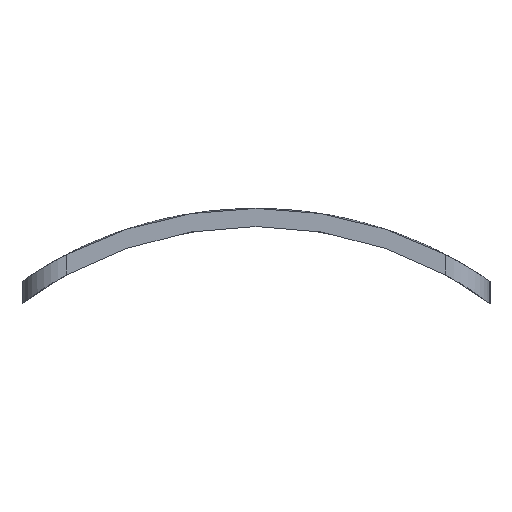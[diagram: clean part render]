
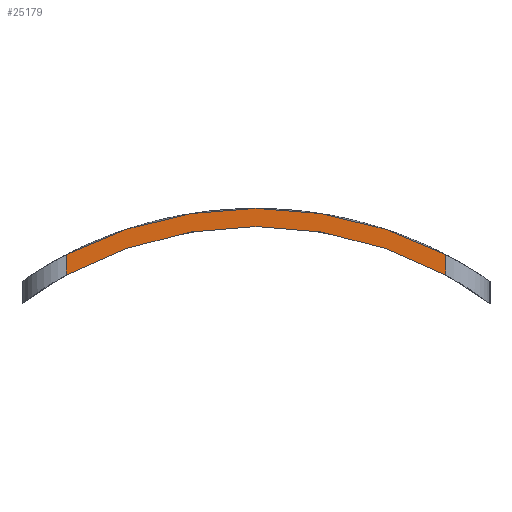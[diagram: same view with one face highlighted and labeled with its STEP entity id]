
A CAD part, left-side view. The second image highlights one B-rep face of the part: STEP entity #25179.
In plain terms, the highlighted planar face has unit normal (-1, 0, 0).
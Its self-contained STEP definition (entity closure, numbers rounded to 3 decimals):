
#22 = VERTEX_POINT('',#23);
#23 = CARTESIAN_POINT('',(245.3,11.5,22.198));
#43 = CYLINDRICAL_SURFACE('',#44,25.);
#44 = AXIS2_PLACEMENT_3D('',#45,#46,#47);
#45 = CARTESIAN_POINT('',(244.,0.,0.));
#46 = DIRECTION('',(1.,0.,0.));
#47 = DIRECTION('',(-0.,0.,1.));
#66 = CYLINDRICAL_SURFACE('',#67,2.7);
#67 = AXIS2_PLACEMENT_3D('',#68,#69,#70);
#68 = CARTESIAN_POINT('',(248.,11.5,5.));
#69 = DIRECTION('',(0.,0.,1.));
#70 = DIRECTION('',(-1.,-0.,0.));
#89 = EDGE_CURVE('',#22,#90,#92,.T.);
#90 = VERTEX_POINT('',#91);
#91 = CARTESIAN_POINT('',(245.3,-11.5,22.198));
#92 = SURFACE_CURVE('',#93,(#98,#105),.PCURVE_S1.);
#93 = CIRCLE('',#94,25.);
#94 = AXIS2_PLACEMENT_3D('',#95,#96,#97);
#95 = CARTESIAN_POINT('',(245.3,0.,0.));
#96 = DIRECTION('',(1.,0.,0.));
#97 = DIRECTION('',(-0.,0.46,0.888));
#98 = PCURVE('',#43,#99);
#99 = DEFINITIONAL_REPRESENTATION('',(#100),#104);
#100 = LINE('',#101,#102);
#101 = CARTESIAN_POINT('',(5.805,1.3));
#102 = VECTOR('',#103,1.);
#103 = DIRECTION('',(1.,0.));
#104 = ( GEOMETRIC_REPRESENTATION_CONTEXT(2) 
PARAMETRIC_REPRESENTATION_CONTEXT() REPRESENTATION_CONTEXT('2D SPACE',''
  ) );
#105 = PCURVE('',#106,#111);
#106 = PLANE('',#107);
#107 = AXIS2_PLACEMENT_3D('',#108,#109,#110);
#108 = CARTESIAN_POINT('',(245.3,-14.2,5.));
#109 = DIRECTION('',(1.,0.,0.));
#110 = DIRECTION('',(0.,0.,1.));
#111 = DEFINITIONAL_REPRESENTATION('',(#112),#116);
#112 = CIRCLE('',#113,25.);
#113 = AXIS2_PLACEMENT_2D('',#114,#115);
#114 = CARTESIAN_POINT('',(-5.,-14.2));
#115 = DIRECTION('',(0.888,-0.46));
#116 = ( GEOMETRIC_REPRESENTATION_CONTEXT(2) 
PARAMETRIC_REPRESENTATION_CONTEXT() REPRESENTATION_CONTEXT('2D SPACE',''
  ) );
#156 = CYLINDRICAL_SURFACE('',#157,2.7);
#157 = AXIS2_PLACEMENT_3D('',#158,#159,#160);
#158 = CARTESIAN_POINT('',(248.,-11.5,5.));
#159 = DIRECTION('',(0.,0.,1.));
#160 = DIRECTION('',(-1.,-0.,0.));
#16059 = CYLINDRICAL_SURFACE('',#16060,23.9);
#16060 = AXIS2_PLACEMENT_3D('',#16061,#16062,#16063);
#16061 = CARTESIAN_POINT('',(243.,0.,0.));
#16062 = DIRECTION('',(1.,0.,0.));
#16063 = DIRECTION('',(-0.,0.,1.));
#16137 = VERTEX_POINT('',#16138);
#16138 = CARTESIAN_POINT('',(245.3,11.5,20.951));
#16194 = EDGE_CURVE('',#16137,#16195,#16197,.T.);
#16195 = VERTEX_POINT('',#16196);
#16196 = CARTESIAN_POINT('',(245.3,-11.5,20.951));
#16197 = SURFACE_CURVE('',#16198,(#16203,#16210),.PCURVE_S1.);
#16198 = CIRCLE('',#16199,23.9);
#16199 = AXIS2_PLACEMENT_3D('',#16200,#16201,#16202);
#16200 = CARTESIAN_POINT('',(245.3,0.,0.));
#16201 = DIRECTION('',(1.,0.,0.));
#16202 = DIRECTION('',(-0.,0.481,0.877));
#16203 = PCURVE('',#16059,#16204);
#16204 = DEFINITIONAL_REPRESENTATION('',(#16205),#16209);
#16205 = LINE('',#16206,#16207);
#16206 = CARTESIAN_POINT('',(5.781,2.3));
#16207 = VECTOR('',#16208,1.);
#16208 = DIRECTION('',(1.,0.));
#16209 = ( GEOMETRIC_REPRESENTATION_CONTEXT(2) 
PARAMETRIC_REPRESENTATION_CONTEXT() REPRESENTATION_CONTEXT('2D SPACE',''
  ) );
#16210 = PCURVE('',#106,#16211);
#16211 = DEFINITIONAL_REPRESENTATION('',(#16212),#16216);
#16212 = CIRCLE('',#16213,23.9);
#16213 = AXIS2_PLACEMENT_2D('',#16214,#16215);
#16214 = CARTESIAN_POINT('',(-5.,-14.2));
#16215 = DIRECTION('',(0.877,-0.481));
#16216 = ( GEOMETRIC_REPRESENTATION_CONTEXT(2) 
PARAMETRIC_REPRESENTATION_CONTEXT() REPRESENTATION_CONTEXT('2D SPACE',''
  ) );
#25156 = EDGE_CURVE('',#16195,#90,#25157,.T.);
#25157 = SURFACE_CURVE('',#25158,(#25162,#25169),.PCURVE_S1.);
#25158 = LINE('',#25159,#25160);
#25159 = CARTESIAN_POINT('',(245.3,-11.5,5.));
#25160 = VECTOR('',#25161,1.);
#25161 = DIRECTION('',(0.,0.,1.));
#25162 = PCURVE('',#156,#25163);
#25163 = DEFINITIONAL_REPRESENTATION('',(#25164),#25168);
#25164 = LINE('',#25165,#25166);
#25165 = CARTESIAN_POINT('',(0.,0.));
#25166 = VECTOR('',#25167,1.);
#25167 = DIRECTION('',(0.,1.));
#25168 = ( GEOMETRIC_REPRESENTATION_CONTEXT(2) 
PARAMETRIC_REPRESENTATION_CONTEXT() REPRESENTATION_CONTEXT('2D SPACE',''
  ) );
#25169 = PCURVE('',#106,#25170);
#25170 = DEFINITIONAL_REPRESENTATION('',(#25171),#25175);
#25171 = LINE('',#25172,#25173);
#25172 = CARTESIAN_POINT('',(0.,-2.7));
#25173 = VECTOR('',#25174,1.);
#25174 = DIRECTION('',(1.,0.));
#25175 = ( GEOMETRIC_REPRESENTATION_CONTEXT(2) 
PARAMETRIC_REPRESENTATION_CONTEXT() REPRESENTATION_CONTEXT('2D SPACE',''
  ) );
#25179 = ADVANCED_FACE('',(#25180),#106,.F.);
#25180 = FACE_BOUND('',#25181,.F.);
#25181 = EDGE_LOOP('',(#25182,#25183,#25184,#25185));
#25182 = ORIENTED_EDGE('',*,*,#89,.T.);
#25183 = ORIENTED_EDGE('',*,*,#25156,.F.);
#25184 = ORIENTED_EDGE('',*,*,#16194,.F.);
#25185 = ORIENTED_EDGE('',*,*,#25186,.T.);
#25186 = EDGE_CURVE('',#16137,#22,#25187,.T.);
#25187 = SURFACE_CURVE('',#25188,(#25192,#25199),.PCURVE_S1.);
#25188 = LINE('',#25189,#25190);
#25189 = CARTESIAN_POINT('',(245.3,11.5,5.));
#25190 = VECTOR('',#25191,1.);
#25191 = DIRECTION('',(0.,0.,1.));
#25192 = PCURVE('',#106,#25193);
#25193 = DEFINITIONAL_REPRESENTATION('',(#25194),#25198);
#25194 = LINE('',#25195,#25196);
#25195 = CARTESIAN_POINT('',(0.,-25.7));
#25196 = VECTOR('',#25197,1.);
#25197 = DIRECTION('',(1.,0.));
#25198 = ( GEOMETRIC_REPRESENTATION_CONTEXT(2) 
PARAMETRIC_REPRESENTATION_CONTEXT() REPRESENTATION_CONTEXT('2D SPACE',''
  ) );
#25199 = PCURVE('',#66,#25200);
#25200 = DEFINITIONAL_REPRESENTATION('',(#25201),#25205);
#25201 = LINE('',#25202,#25203);
#25202 = CARTESIAN_POINT('',(-0.,0.));
#25203 = VECTOR('',#25204,1.);
#25204 = DIRECTION('',(-0.,1.));
#25205 = ( GEOMETRIC_REPRESENTATION_CONTEXT(2) 
PARAMETRIC_REPRESENTATION_CONTEXT() REPRESENTATION_CONTEXT('2D SPACE',''
  ) );
